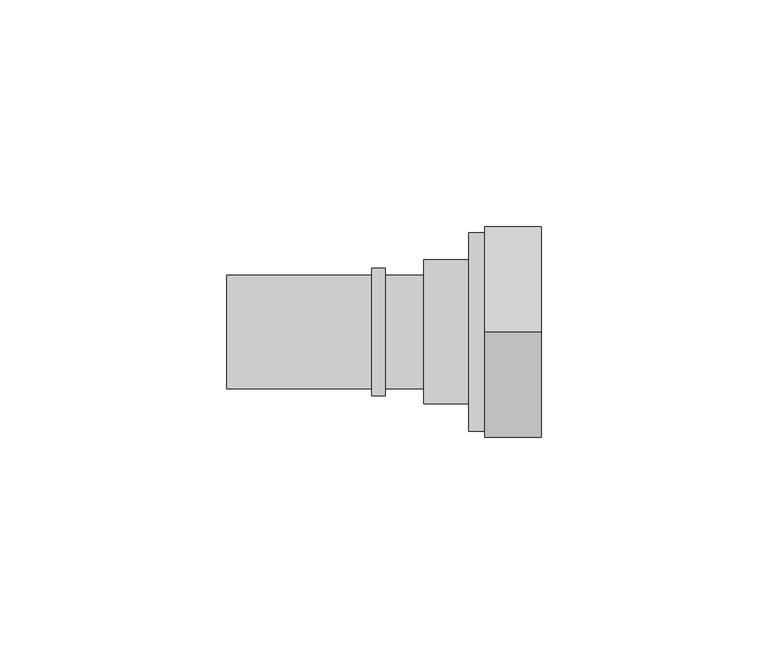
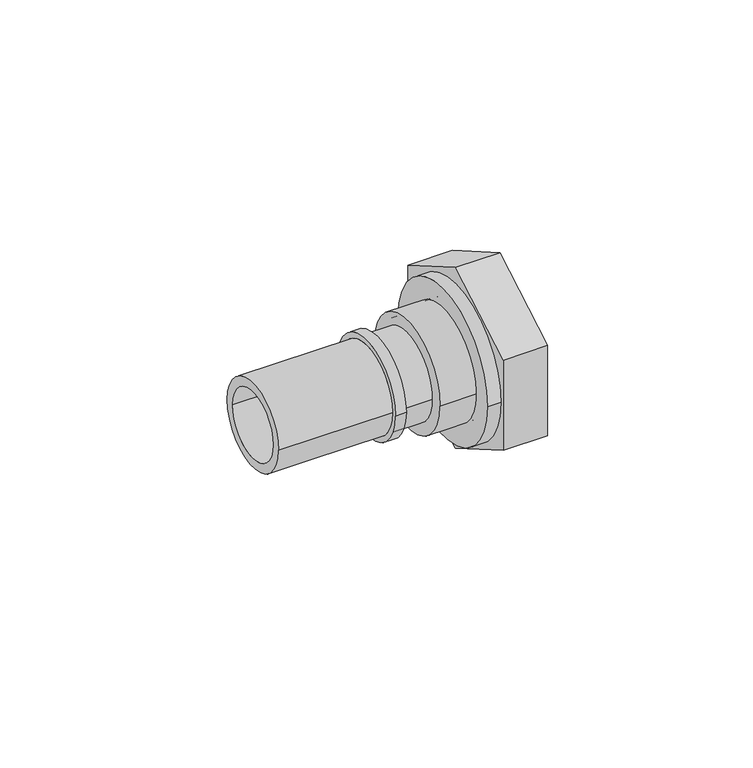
"""IFC4 building model written with IfcOpenShell, lengths in millimetres: pipe fitting geometry, FASTLOC_Adapter with union nut LX : FSL A union nut PL."""

from ifc_helpers import new_model, si_unit, point, frame, origin, origin_2d, place, context, project, spatial, polyline, circle_curve, trimmed, segment, composite_curve, outline, extrude, source, transform, mapped, element, save
from ifc_brep_helpers import plane_surface, cylinder_surface, revolved_surface, advanced_brep


def pipe_fitting_556e0823(model_context):
    return source(origin(), model_context, "Body", "SolidModel", [
        advanced_brep(
        [(12.0, 15.9, 0.0), (12.0, -15.9, 0.0), (0.0, -15.9, 0.0), (0.0, 15.9, 0.0), (14.0, 20.0, 0.0), (14.0, -20.0, 0.0), (12.0, -20.0, 0.0), (12.0, 20.0, 0.0), (1.4730817, 14.15, 0.0), (1.4730817, -14.15, 0.0), (14.0, -14.15, 0.0), (14.0, 14.15, 0.0), (0.0, 11.9764556, 0.0), (0.0, -11.9764556, 0.0), (1.4730817, -11.9764556, 0.0), (1.4730817, 11.9764556, 0.0)],
        [
            (0, 1, circle_curve(frame((12.0, 0.0, 0.0), z_axis=(-1.0, 0.0, 0.0), x_axis=(0.0, -1.0, 0.0)), 15.9)),
            (1, 2),
            (2, 3, circle_curve(frame((0.0, 0.0, 0.0), z_axis=(1.0, 0.0, 0.0), x_axis=(0.0, -1.0, 0.0)), 15.9)),
            (3, 0),
            (4, 5, circle_curve(frame((14.0, 0.0, 0.0), z_axis=(-1.0, 0.0, 0.0), x_axis=(0.0, -1.0, 0.0)), 20.0)),
            (5, 6),
            (6, 7, circle_curve(frame((12.0, 0.0, 0.0), z_axis=(1.0, 0.0, 0.0), x_axis=(0.0, -1.0, 0.0)), 20.0)),
            (7, 4),
            (8, 9, circle_curve(frame((1.4730817, 0.0, 0.0), z_axis=(-1.0, 0.0, 0.0), x_axis=(0.0, -1.0, 0.0)), 14.15)),
            (9, 10),
            (10, 11, circle_curve(frame((14.0, 0.0, 0.0), z_axis=(1.0, 0.0, 0.0), x_axis=(0.0, -1.0, 0.0)), 14.15)),
            (11, 8),
            (12, 13, circle_curve(frame((0.0, 0.0, 0.0), z_axis=(-1.0, 0.0, 0.0), x_axis=(0.0, -1.0, 0.0)), 11.9764556)),
            (13, 14),
            (14, 15, circle_curve(frame((1.4730817, 0.0, 0.0), z_axis=(1.0, 0.0, 0.0), x_axis=(0.0, -1.0, 0.0)), 11.9764556)),
            (15, 12),
            (2, 3, circle_curve(frame((0.0, 0.0, 0.0), z_axis=(-1.0, 0.0, 0.0), x_axis=(0.0, 1.0, 0.0)), 15.9)),
            (12, 13, circle_curve(frame((0.0, 0.0, 0.0), z_axis=(1.0, 0.0, 0.0), x_axis=(0.0, 1.0, 0.0)), 11.9764556)),
            (1, 0, circle_curve(frame((12.0, 0.0, 0.0), z_axis=(-1.0, 0.0, 0.0), x_axis=(0.0, 1.0, 0.0)), 15.9)),
            (6, 7, circle_curve(frame((12.0, 0.0, 0.0), z_axis=(-1.0, 0.0, 0.0), x_axis=(0.0, 1.0, 0.0)), 20.0)),
            (5, 4, circle_curve(frame((14.0, 0.0, 0.0), z_axis=(-1.0, 0.0, 0.0), x_axis=(0.0, 1.0, 0.0)), 20.0)),
            (10, 11, circle_curve(frame((14.0, 0.0, 0.0), z_axis=(-1.0, 0.0, 0.0), x_axis=(0.0, 1.0, 0.0)), 14.15)),
            (9, 8, circle_curve(frame((1.4730817, 0.0, 0.0), z_axis=(-1.0, 0.0, 0.0), x_axis=(0.0, 1.0, 0.0)), 14.15)),
            (14, 15, circle_curve(frame((1.4730817, 0.0, 0.0), z_axis=(-1.0, 0.0, 0.0), x_axis=(0.0, 1.0, 0.0)), 11.9764556)),
        ],
        [
            cylinder_surface(frame((0.0, 0.0, 0.0), z_axis=(1.0, 0.0, 0.0), x_axis=(0.0, -1.0, 0.0)), 15.9),
            cylinder_surface(frame((0.0, 0.0, 0.0), z_axis=(1.0, 0.0, 0.0), x_axis=(0.0, -1.0, 0.0)), 20.0),
            revolved_surface(polyline([(14.0, -14.15, 0.0), (1.4730817, -14.15, 0.0)]), (0.0, 0.0, 0.0), (1.0, 0.0, 0.0)),
            revolved_surface(polyline([(1.4730817, -11.9764556, 0.0), (0.0, -11.9764556, 0.0)]), (0.0, 0.0, 0.0), (1.0, 0.0, 0.0)),
            plane_surface(frame((0.0, 0.0, 0.0), z_axis=(-1.0, 0.0, 0.0), x_axis=(0.0, 1.0, 0.0))),
            cylinder_surface(frame((0.0, 0.0, 0.0), z_axis=(1.0, 0.0, 0.0), x_axis=(0.0, 1.0, 0.0)), 15.9),
            plane_surface(frame((12.0, 0.0, 0.0), z_axis=(-1.0, 0.0, 0.0), x_axis=(0.0, 1.0, 0.0))),
            cylinder_surface(frame((0.0, 0.0, 0.0), z_axis=(1.0, 0.0, 0.0), x_axis=(0.0, 1.0, 0.0)), 20.0),
            plane_surface(frame((14.0, 0.0, 0.0), z_axis=(1.0, 0.0, 0.0), x_axis=(0.0, 1.0, 0.0))),
            revolved_surface(polyline([(14.0, 14.15, 0.0), (1.4730817, 14.15, 0.0)]), (0.0, 0.0, 0.0), (1.0, 0.0, 0.0)),
            plane_surface(frame((1.4730817, 0.0, 0.0), z_axis=(1.0, 0.0, 0.0), x_axis=(0.0, 1.0, 0.0))),
            revolved_surface(polyline([(1.4730817, 11.9764556, 0.0), (0.0, 11.9764556, 0.0)]), (0.0, 0.0, 0.0), (1.0, 0.0, 0.0)),
        ],
        [
            (0, [[1, 2, 3, 4]]),
            (1, [[5, 6, 7, 8]]),
            (2, [[9, 10, 11, 12]]),
            (3, [[13, 14, 15, 16]]),
            (4, [[17, -3], [18, -13]]),
            (5, [[19, -4, -17, -2]]),
            (6, [[20, -7], [-19, -1]]),
            (7, [[21, -8, -20, -6]]),
            (8, [[-21, -5], [22, -11]]),
            (9, [[23, -12, -22, -10]]),
            (10, [[-23, -9], [24, -15]]),
            (11, [[-18, -16, -24, -14]]),
        ],
    ),
        advanced_brep(
        [(26.0, 21.9, 0.0), (26.0, -21.9, 0.0), (10.0, -21.9, 0.0), (10.0, 21.9, 0.0), (13.5, 19.0, 0.0), (13.5, -19.0, 0.0), (26.0, -19.0, 0.0), (26.0, 19.0, 0.0), (10.0, 15.5, 0.0), (10.0, -15.5, 0.0), (13.5, -15.5, 0.0), (13.5, 15.5, 0.0)],
        [
            (0, 1, circle_curve(frame((26.0, 0.0, 0.0), z_axis=(-1.0, 0.0, 0.0), x_axis=(0.0, -1.0, 0.0)), 21.9)),
            (1, 2),
            (2, 3, circle_curve(frame((10.0, 0.0, 0.0), z_axis=(1.0, 0.0, 0.0), x_axis=(0.0, -1.0, 0.0)), 21.9)),
            (3, 0),
            (4, 5, circle_curve(frame((13.5, 0.0, 0.0), z_axis=(-1.0, 0.0, 0.0), x_axis=(0.0, -1.0, 0.0)), 19.0)),
            (5, 6),
            (6, 7, circle_curve(frame((26.0, 0.0, 0.0), z_axis=(1.0, 0.0, 0.0), x_axis=(0.0, -1.0, 0.0)), 19.0)),
            (7, 4),
            (8, 9, circle_curve(frame((10.0, 0.0, 0.0), z_axis=(-1.0, 0.0, 0.0), x_axis=(0.0, -1.0, 0.0)), 15.5)),
            (9, 10),
            (10, 11, circle_curve(frame((13.5, 0.0, 0.0), z_axis=(1.0, 0.0, 0.0), x_axis=(0.0, -1.0, 0.0)), 15.5)),
            (11, 8),
            (1, 0, circle_curve(frame((26.0, 0.0, 0.0), z_axis=(-1.0, 0.0, 0.0), x_axis=(0.0, 1.0, 0.0)), 21.9)),
            (3, 2, circle_curve(frame((10.0, 0.0, 0.0), z_axis=(1.0, 0.0, 0.0), x_axis=(0.0, 1.0, 0.0)), 21.9)),
            (6, 7, circle_curve(frame((26.0, 0.0, 0.0), z_axis=(-1.0, 0.0, 0.0), x_axis=(0.0, 1.0, 0.0)), 19.0)),
            (5, 4, circle_curve(frame((13.5, 0.0, 0.0), z_axis=(-1.0, 0.0, 0.0), x_axis=(0.0, 1.0, 0.0)), 19.0)),
            (10, 11, circle_curve(frame((13.5, 0.0, 0.0), z_axis=(-1.0, 0.0, 0.0), x_axis=(0.0, 1.0, 0.0)), 15.5)),
            (9, 8, circle_curve(frame((10.0, 0.0, 0.0), z_axis=(-1.0, 0.0, 0.0), x_axis=(0.0, 1.0, 0.0)), 15.5)),
        ],
        [
            cylinder_surface(frame((0.0, 0.0, 0.0), z_axis=(1.0, 0.0, 0.0), x_axis=(0.0, -1.0, 0.0)), 21.9),
            revolved_surface(polyline([(26.0, -19.0, 0.0), (13.5, -19.0, 0.0)]), (0.0, 0.0, 0.0), (1.0, 0.0, 0.0)),
            revolved_surface(polyline([(13.5, -15.5, 0.0), (10.0, -15.5, 0.0)]), (0.0, 0.0, 0.0), (1.0, 0.0, 0.0)),
            cylinder_surface(frame((0.0, 0.0, 0.0), z_axis=(1.0, 0.0, 0.0), x_axis=(0.0, 1.0, 0.0)), 21.9),
            plane_surface(frame((26.0, 0.0, 0.0), z_axis=(1.0, 0.0, 0.0), x_axis=(0.0, 1.0, 0.0))),
            revolved_surface(polyline([(26.0, 19.0, 0.0), (13.5, 19.0, 0.0)]), (0.0, 0.0, 0.0), (1.0, 0.0, 0.0)),
            plane_surface(frame((13.5, 0.0, 0.0), z_axis=(1.0, 0.0, 0.0), x_axis=(0.0, 1.0, 0.0))),
            revolved_surface(polyline([(13.5, 15.5, 0.0), (10.0, 15.5, 0.0)]), (0.0, 0.0, 0.0), (1.0, 0.0, 0.0)),
            plane_surface(frame((10.0, 0.0, 0.0), z_axis=(-1.0, 0.0, 0.0), x_axis=(0.0, 1.0, 0.0))),
        ],
        [
            (0, [[1, 2, 3, 4]]),
            (1, [[5, 6, 7, 8]]),
            (2, [[9, 10, 11, 12]]),
            (3, [[13, -4, 14, -2]]),
            (4, [[-13, -1], [15, -7]]),
            (5, [[16, -8, -15, -6]]),
            (6, [[-16, -5], [17, -11]]),
            (7, [[18, -12, -17, -10]]),
            (8, [[-14, -3], [-18, -9]]),
        ],
    ),
        extrude(outline(polyline([(0.0, -26.8467875), (-23.25, -13.4233938), (-23.25, 13.4233938), (0.0, 26.8467875), (23.25, 13.4233938), (23.25, -13.4233938), (0.0, -26.8467875)]), holes=[composite_curve([segment(trimmed(circle_curve(origin_2d(), 19.0), [point((-19.0, 0.0))], [point((19.0, 0.0))], True, "CARTESIAN"), True, "CONTINUOUS"), segment(trimmed(circle_curve(origin_2d(), 19.0), [point((19.0, 0.0))], [point((-19.0, 0.0))], True, "CARTESIAN"), True, "CONTINUOUS")], self_intersect=False)]), frame((13.5, 0.0, 0.0), z_axis=(1.0, 0.0, 0.0), x_axis=(0.0, 1.0, 0.0)), (0.0, 0.0, 1.0), 12.5),
        advanced_brep(
        [(-11.5, 12.5, 0.0), (-11.5, -12.5, 0.0), (-43.5, -12.5, 0.0), (-43.5, 12.5, 0.0), (-8.5, 14.1, 0.0), (-8.5, -14.1, 0.0), (-11.5, -14.1, 0.0), (-11.5, 14.1, 0.0), (0.0, 12.5, 0.0), (0.0, -12.5, 0.0), (-8.5, -12.5, 0.0), (-8.5, 12.5, 0.0), (-43.5, 9.85, 0.0), (-43.5, -9.85, 0.0), (0.0, -9.85, 0.0), (0.0, 9.85, 0.0)],
        [
            (0, 1, circle_curve(frame((-11.5, 0.0, 0.0), z_axis=(-1.0, 0.0, 0.0), x_axis=(0.0, -1.0, 0.0)), 12.5)),
            (1, 2),
            (2, 3, circle_curve(frame((-43.5, 0.0, 0.0), z_axis=(1.0, 0.0, 0.0), x_axis=(0.0, -1.0, 0.0)), 12.5)),
            (3, 0),
            (4, 5, circle_curve(frame((-8.5, 0.0, 0.0), z_axis=(-1.0, 0.0, 0.0), x_axis=(0.0, -1.0, 0.0)), 14.1)),
            (5, 6),
            (6, 7, circle_curve(frame((-11.5, 0.0, 0.0), z_axis=(1.0, 0.0, 0.0), x_axis=(0.0, -1.0, 0.0)), 14.1)),
            (7, 4),
            (8, 9, circle_curve(frame((0.0, 0.0, 0.0), z_axis=(-1.0, 0.0, 0.0), x_axis=(0.0, -1.0, 0.0)), 12.5)),
            (9, 10),
            (10, 11, circle_curve(frame((-8.5, 0.0, 0.0), z_axis=(1.0, 0.0, 0.0), x_axis=(0.0, -1.0, 0.0)), 12.5)),
            (11, 8),
            (12, 13, circle_curve(frame((-43.5, 0.0, 0.0), z_axis=(-1.0, 0.0, 0.0), x_axis=(0.0, -1.0, 0.0)), 9.85)),
            (13, 14),
            (14, 15, circle_curve(frame((0.0, 0.0, 0.0), z_axis=(1.0, 0.0, 0.0), x_axis=(0.0, -1.0, 0.0)), 9.85)),
            (15, 12),
            (2, 3, circle_curve(frame((-43.5, 0.0, 0.0), z_axis=(-1.0, 0.0, 0.0), x_axis=(0.0, 1.0, 0.0)), 12.5)),
            (12, 13, circle_curve(frame((-43.5, 0.0, 0.0), z_axis=(1.0, 0.0, 0.0), x_axis=(0.0, 1.0, 0.0)), 9.85)),
            (1, 0, circle_curve(frame((-11.5, 0.0, 0.0), z_axis=(-1.0, 0.0, 0.0), x_axis=(0.0, 1.0, 0.0)), 12.5)),
            (6, 7, circle_curve(frame((-11.5, 0.0, 0.0), z_axis=(-1.0, 0.0, 0.0), x_axis=(0.0, 1.0, 0.0)), 14.1)),
            (5, 4, circle_curve(frame((-8.5, 0.0, 0.0), z_axis=(-1.0, 0.0, 0.0), x_axis=(0.0, 1.0, 0.0)), 14.1)),
            (10, 11, circle_curve(frame((-8.5, 0.0, 0.0), z_axis=(-1.0, 0.0, 0.0), x_axis=(0.0, 1.0, 0.0)), 12.5)),
            (9, 8, circle_curve(frame((0.0, 0.0, 0.0), z_axis=(-1.0, 0.0, 0.0), x_axis=(0.0, 1.0, 0.0)), 12.5)),
            (14, 15, circle_curve(frame((0.0, 0.0, 0.0), z_axis=(-1.0, 0.0, 0.0), x_axis=(0.0, 1.0, 0.0)), 9.85)),
        ],
        [
            cylinder_surface(frame((0.0, 0.0, 0.0), z_axis=(1.0, 0.0, 0.0), x_axis=(0.0, -1.0, 0.0)), 12.5),
            cylinder_surface(frame((0.0, 0.0, 0.0), z_axis=(1.0, 0.0, 0.0), x_axis=(0.0, -1.0, 0.0)), 14.1),
            revolved_surface(polyline([(0.0, -9.85, 0.0), (-43.5, -9.85, 0.0)]), (0.0, 0.0, 0.0), (1.0, 0.0, 0.0)),
            plane_surface(frame((-43.5, 0.0, 0.0), z_axis=(-1.0, 0.0, 0.0), x_axis=(0.0, 1.0, 0.0))),
            cylinder_surface(frame((0.0, 0.0, 0.0), z_axis=(1.0, 0.0, 0.0), x_axis=(0.0, 1.0, 0.0)), 12.5),
            plane_surface(frame((-11.5, 0.0, 0.0), z_axis=(-1.0, 0.0, 0.0), x_axis=(0.0, 1.0, 0.0))),
            cylinder_surface(frame((0.0, 0.0, 0.0), z_axis=(1.0, 0.0, 0.0), x_axis=(0.0, 1.0, 0.0)), 14.1),
            plane_surface(frame((-8.5, 0.0, 0.0), z_axis=(1.0, 0.0, 0.0), x_axis=(0.0, 1.0, 0.0))),
            plane_surface(frame((0.0, 0.0, 0.0), z_axis=(1.0, 0.0, 0.0), x_axis=(0.0, 1.0, 0.0))),
            revolved_surface(polyline([(0.0, 9.85, 0.0), (-43.5, 9.85, 0.0)]), (0.0, 0.0, 0.0), (1.0, 0.0, 0.0)),
        ],
        [
            (0, [[1, 2, 3, 4]]),
            (1, [[5, 6, 7, 8]]),
            (0, [[9, 10, 11, 12]]),
            (2, [[13, 14, 15, 16]]),
            (3, [[17, -3], [18, -13]]),
            (4, [[19, -4, -17, -2]]),
            (5, [[20, -7], [-19, -1]]),
            (6, [[21, -8, -20, -6]]),
            (7, [[-21, -5], [22, -11]]),
            (4, [[23, -12, -22, -10]]),
            (8, [[-23, -9], [24, -15]]),
            (9, [[-18, -16, -24, -14]]),
        ],
    ),
    ])


if __name__ == "__main__":
    model = new_model("IFC4")
    model_context = context("Model", 3, world=origin())
    ifc_project = project(units=[si_unit("LENGTHUNIT", "METRE", prefix="MILLI")], contexts=[model_context])
    site = spatial("IfcSite", under=ifc_project)
    building = spatial("IfcBuilding", under=site)
    placement = place(None, origin())
    pipe_fitting_shape = pipe_fitting_556e0823(model_context)
    element("IfcPipeFitting", 1, ObjectType="FASTLOC_Adapter with union nut LX : FSL A union nut PL", at=placement, inside=building, context=model_context, shape_type="MappedRepresentation", body=[
        mapped(pipe_fitting_shape, transform((0.0, 0.0, 0.0), x_axis=(1.0, 0.0, 0.0), y_axis=(0.0, 1.0, 0.0), z_axis=(0.0, 0.0, 1.0))),
    ])
    save(model, "model.ifc")
